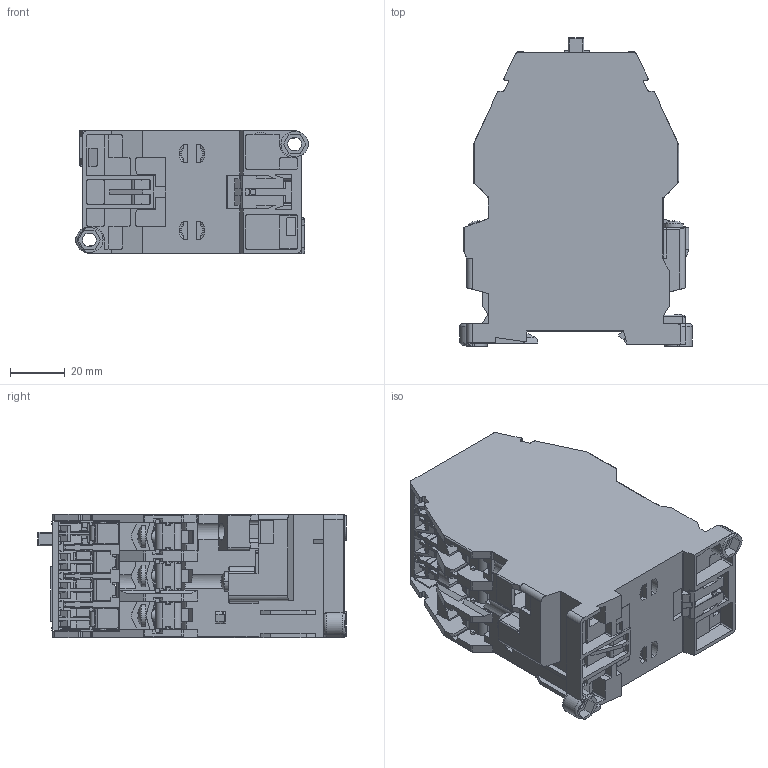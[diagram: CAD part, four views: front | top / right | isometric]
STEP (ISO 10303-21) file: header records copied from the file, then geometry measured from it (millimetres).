
FILE_DESCRIPTION((''),'2;1');
FILE_NAME('2401000300_SW0001','2024-09-23T',('youjie.zhu'),(''),'PRO/ENGINEER BY PARAMETRIC TECHNOLOGY CORPORATION, 2015440','PRO/ENGINEER BY PARAMETRIC TECHNOLOGY CORPORATION, 2015440','');
FILE_SCHEMA(('CONFIG_CONTROL_DESIGN'));
Products named in the file (1): 2401000300_SW0001
Bounding box: 85 x 112.85 x 45 mm (x, y, z)
Volume: 129555 mm3; surface area: 131450.5 mm2
Topology: 1 solids, 2 shells, 6983 faces, 21040 edges, 13663 vertices
Faces by surface type: plane 5499, cylinder 1274, torus 125, cone 36, bspline 25, sphere 24
Entity records: 244454 total; most frequent: CARTESIAN_POINT 54853, ORIENTED_EDGE 42060, DIRECTION 36616, EDGE_CURVE 21030, VECTOR 17112, LINE 17112, VERTEX_POINT 13663, AXIS2_PLACEMENT_3D 9752
